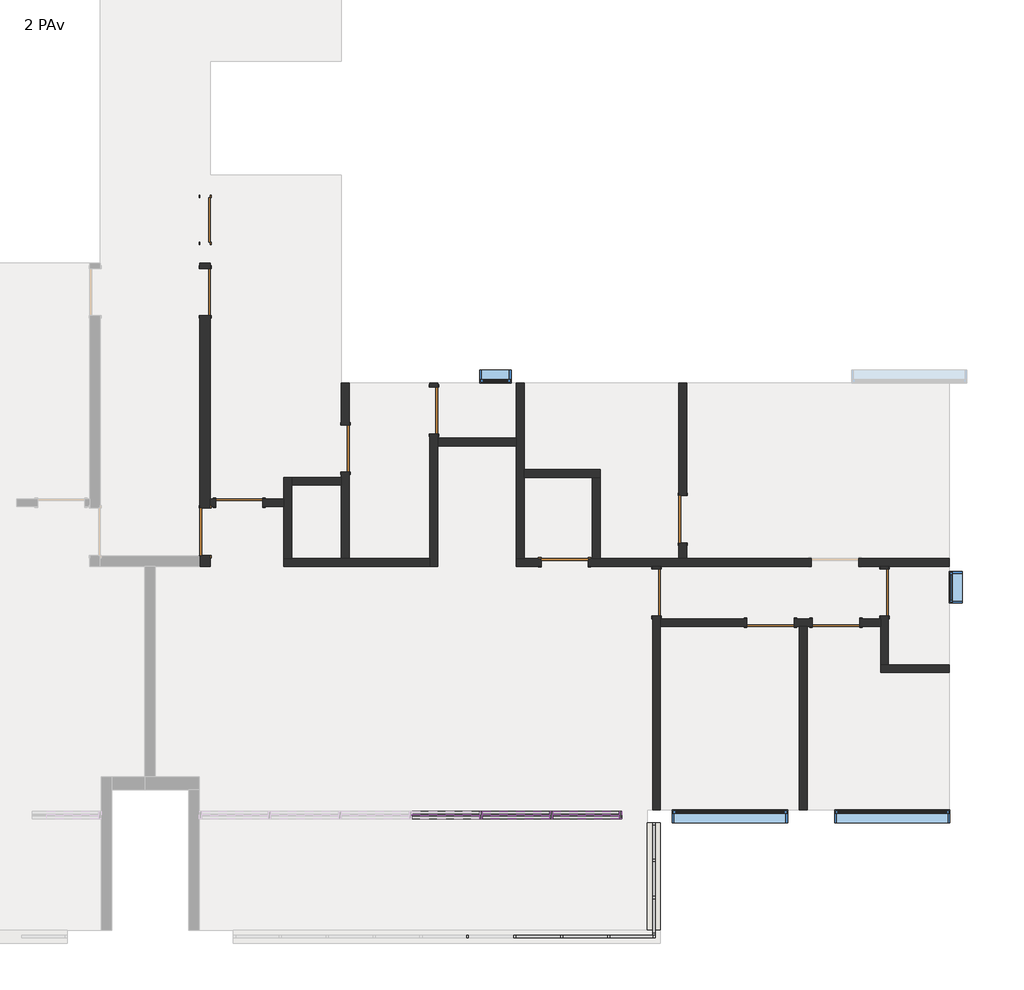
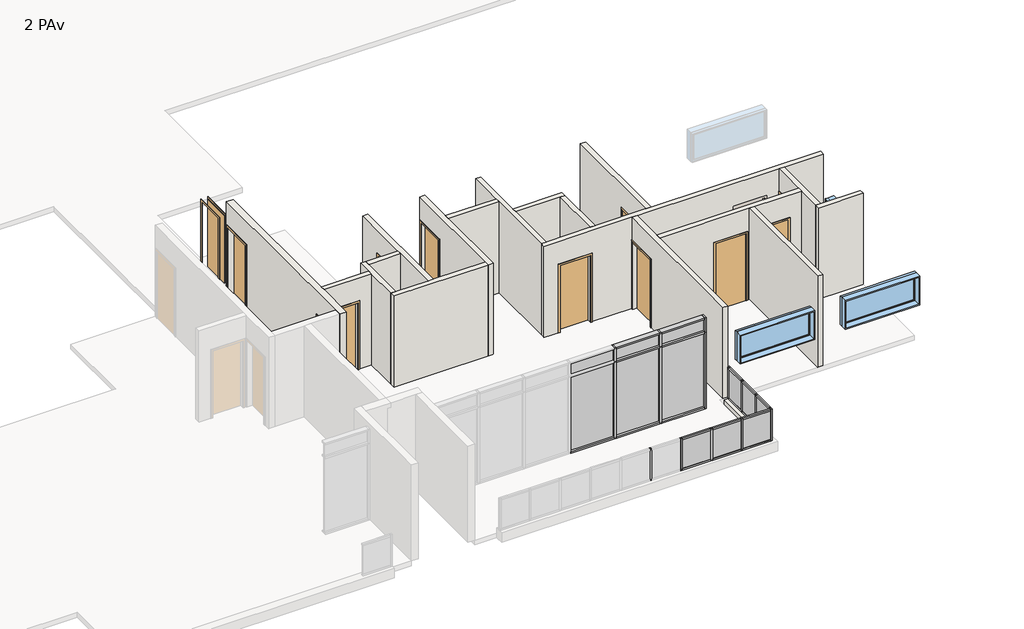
# One storey, part 3 of 6: 34 members, 19 walls, 12 doors, 12 plates, 4 windows.
"""IFC4 building model written with IfcOpenShell, lengths in millimetres."""

from ifc_helpers import new_model, si_unit, frame, origin, place, context, project, spatial, polyline, outline, extrude, faceted_brep, transform, mapped, element, save
from components import door_85_x_210_7675e995, door_90_x_210_ee935524, door_90_x_210_565370b3, door_90_x_210_fbafd55c, montante_retangular_50_mm_quadrado_4acded50, montante_retangular_50_mm_quadrado_237d7072, montante_retangular_50_mm_quadrado_84e40a56, montante_retangular_50_mm_quadrado_3d152aff, montante_retangular_50_mm_quadrado_a01005a4, montante_retangular_50_mm_quadrado_ddd80bd7, montante_retangular_50_x_150_mm_6217edde, montante_retangular_50_x_150_mm_a22249d7, montante_retangular_50_x_150_mm_6225e4e3, montante_retangular_50_x_150_mm_1ca2bba2, montante_retangular_50_x_150_mm_6abf4531, montante_retangular_50_x_150_mm_662c37b1, montante_retangular_50_x_150_mm_567eccab, montante_retangular_50_x_150_mm_0a8c3443, painel_do_sistema_57ceaf50, painel_do_sistema_ab0ed719, painel_do_sistema_0196877a, painel_do_sistema_2aa81470, painel_do_sistema_1ecb5f42, painel_do_sistema_49db1829, painel_do_sistema_5ea5287b, painel_do_sistema_7730abee, window_0610_x_0610_mm_da1d4716, window_220_x_90_84e01c73

model = new_model("IFC4")

# Units and contexts
model_context = context("Model", 3, world=origin())
ifc_project = project(units=[si_unit("LENGTHUNIT", "METRE", prefix="MILLI")], contexts=[model_context])

# Site, building, storey
site = spatial("IfcSite", under=ifc_project)
building = spatial("IfcBuilding", under=site)
storey = spatial("IfcBuildingStorey", under=building, Name="2 PAv", Elevation=6000.0)

# Doors
placement = place(None, origin())
door_85_x_210_shape = door_85_x_210_7675e995(model_context)
element("IfcDoor", 1, ObjectType="M_Descarga simples : 85 x 210", at=placement, inside=storey, context=model_context, shape_type="MappedRepresentation", body=[
    mapped(door_85_x_210_shape, transform((23.7734258, -1171.3385375, 6000.0), x_axis=(0.0, -1.0, 0.0), y_axis=(1.0, 0.0, 0.0), z_axis=(0.0, 0.0, 1.0))),
])
door_90_x_210_shape = door_90_x_210_ee935524(model_context)
element("IfcDoor", 2, ObjectType="M_Descarga simples : 90 x 210", at=placement, inside=storey, context=model_context, shape_type="MappedRepresentation", body=[
    mapped(door_90_x_210_shape, transform((12063.7734258, -8861.3385375, 6000.0), x_axis=(-1.0, 0.0, 0.0), y_axis=(0.0, -1.0, 0.0), z_axis=(0.0, 0.0, 1.0))),
])
element("IfcDoor", 3, ObjectType="M_Descarga simples : 90 x 210", at=placement, inside=storey, context=model_context, shape_type="MappedRepresentation", body=[
    mapped(door_90_x_210_shape, transform((6883.7734258, -7711.3385375, 6000.0), x_axis=(1.0, 0.0, 0.0), y_axis=(0.0, 1.0, 0.0), z_axis=(0.0, 0.0, 1.0))),
])
door_90_x_210_2_shape = door_90_x_210_565370b3(model_context)
element("IfcDoor", 4, ObjectType="M_Descarga simples : 90 x 210", at=placement, inside=storey, context=model_context, shape_type="MappedRepresentation", body=[
    mapped(door_90_x_210_2_shape, transform((673.7734258, -6571.3385375, 6000.0), x_axis=(-1.0, 0.0, 0.0), y_axis=(0.0, -1.0, 0.0), z_axis=(0.0, 0.0, 1.0))),
])
element("IfcDoor", 5, ObjectType="M_Descarga simples : 90 x 210", at=placement, inside=storey, context=model_context, shape_type="MappedRepresentation", body=[
    mapped(door_90_x_210_2_shape, transform((2698.7734258, -5536.3385375, 6000.0), x_axis=(0.0, 1.0, 0.0), y_axis=(-1.0, 0.0, 0.0), z_axis=(0.0, 0.0, 1.0))),
])
element("IfcDoor", 6, ObjectType="M_Descarga simples : 90 x 210", at=placement, inside=storey, context=model_context, shape_type="MappedRepresentation", body=[
    mapped(door_90_x_210_2_shape, transform((4388.7734258, -4811.3385375, 6000.0), x_axis=(0.0, 1.0, 0.0), y_axis=(-1.0, 0.0, 0.0), z_axis=(0.0, 0.0, 1.0))),
])
element("IfcDoor", 7, ObjectType="M_Descarga simples : 90 x 210", at=placement, inside=storey, context=model_context, shape_type="MappedRepresentation", body=[
    mapped(door_90_x_210_2_shape, transform((9138.7734258, -6886.3385375, 6000.0), x_axis=(0.0, -1.0, 0.0), y_axis=(1.0, 0.0, 0.0), z_axis=(0.0, 0.0, 1.0))),
])
element("IfcDoor", 8, ObjectType="M_Descarga simples : 90 x 210", at=placement, inside=storey, context=model_context, shape_type="MappedRepresentation", body=[
    mapped(door_90_x_210_2_shape, transform((8638.7734258, -8286.3385375, 6000.0), x_axis=(0.0, 1.0, 0.0), y_axis=(-1.0, 0.0, 0.0), z_axis=(0.0, 0.0, 1.0))),
])
element("IfcDoor", 9, ObjectType="M_Descarga simples : 90 x 210", at=placement, inside=storey, context=model_context, shape_type="MappedRepresentation", body=[
    mapped(door_90_x_210_2_shape, transform((12988.7734258, -8286.3385375, 6000.0), x_axis=(0.0, 1.0, 0.0), y_axis=(-1.0, 0.0, 0.0), z_axis=(0.0, 0.0, 1.0))),
])
element("IfcDoor", 10, ObjectType="M_Descarga simples : 90 x 210", at=placement, inside=storey, context=model_context, shape_type="MappedRepresentation", body=[
    mapped(door_90_x_210_2_shape, transform((10813.7734258, -8861.3385375, 6000.0), x_axis=(1.0, 0.0, 0.0), y_axis=(0.0, 1.0, 0.0), z_axis=(0.0, 0.0, 1.0))),
])
door_90_x_210_3_shape = door_90_x_210_fbafd55c(model_context)
element("IfcDoor", 11, ObjectType="M_Descarga simples : 90 x 210", at=placement, inside=storey, context=model_context, shape_type="MappedRepresentation", body=[
    mapped(door_90_x_210_3_shape, transform((23.7734258, -2546.3385375, 6000.0), x_axis=(0.0, 1.0, 0.0), y_axis=(-1.0, 0.0, 0.0), z_axis=(0.0, 0.0, 1.0))),
])
element("IfcDoor", 12, ObjectType="M_Descarga simples : 90 x 210", at=placement, inside=storey, context=model_context, shape_type="MappedRepresentation", body=[
    mapped(door_90_x_210_3_shape, transform((23.7734258, -7125.9292512, 6000.0), x_axis=(0.0, -1.0, 0.0), y_axis=(1.0, 0.0, 0.0), z_axis=(0.0, 0.0, 1.0))),
])

# Members
montante_retangular_50_mm_quadrado_shape = montante_retangular_50_mm_quadrado_4acded50(model_context)
element("IfcMember", 13, ObjectType="Montante retangular : 50 mm Quadrado", at=placement, inside=storey, context=model_context, shape_type="MappedRepresentation", body=[
    mapped(montante_retangular_50_mm_quadrado_shape, transform((8563.7734258, -14856.3385375, 7150.0), x_axis=(0.0, 0.0, 1.0), y_axis=(0.0, -1.0, 0.0), z_axis=(1.0, 0.0, 0.0))),
])
montante_retangular_50_mm_quadrado_2_shape = montante_retangular_50_mm_quadrado_237d7072(model_context)
element("IfcMember", 14, ObjectType="Montante retangular : 50 mm Quadrado", at=placement, inside=storey, context=model_context, shape_type="MappedRepresentation", body=[
    mapped(montante_retangular_50_mm_quadrado_2_shape, transform((6798.7734258, -14856.3385375, 7150.0), x_axis=(0.0, 0.0, 1.0), y_axis=(0.0, -1.0, 0.0), z_axis=(1.0, 0.0, 0.0))),
])
element("IfcMember", 15, ObjectType="Montante retangular : 50 mm Quadrado", at=placement, inside=storey, context=model_context, shape_type="MappedRepresentation", body=[
    mapped(montante_retangular_50_mm_quadrado_2_shape, transform((7693.7734258, -14856.3385375, 7150.0), x_axis=(0.0, 0.0, 1.0), y_axis=(0.0, -1.0, 0.0), z_axis=(1.0, 0.0, 0.0))),
])
element("IfcMember", 16, ObjectType="Montante retangular : 50 mm Quadrado", at=placement, inside=storey, context=model_context, shape_type="MappedRepresentation", body=[
    mapped(montante_retangular_50_mm_quadrado_shape, transform((7743.7734258, -14856.3385375, 6150.0), x_axis=(0.0, 0.0, -1.0), y_axis=(0.0, -1.0, 0.0), z_axis=(-1.0, 0.0, 0.0))),
])
element("IfcMember", 17, ObjectType="Montante retangular : 50 mm Quadrado", at=placement, inside=storey, context=model_context, shape_type="MappedRepresentation", body=[
    mapped(montante_retangular_50_mm_quadrado_2_shape, transform((5953.7734258, -14856.3385375, 6150.0), x_axis=(0.0, 0.0, -1.0), y_axis=(0.0, -1.0, 0.0), z_axis=(-1.0, 0.0, 0.0))),
])
element("IfcMember", 18, ObjectType="Montante retangular : 50 mm Quadrado", at=placement, inside=storey, context=model_context, shape_type="MappedRepresentation", body=[
    mapped(montante_retangular_50_mm_quadrado_2_shape, transform((6848.7734258, -14856.3385375, 6150.0), x_axis=(0.0, 0.0, -1.0), y_axis=(0.0, -1.0, 0.0), z_axis=(-1.0, 0.0, 0.0))),
])
montante_retangular_50_mm_quadrado_3_shape = montante_retangular_50_mm_quadrado_84e40a56(model_context)
element("IfcMember", 19, ObjectType="Montante retangular : 50 mm Quadrado", at=placement, inside=storey, context=model_context, shape_type="MappedRepresentation", body=[
    mapped(montante_retangular_50_mm_quadrado_3_shape, transform((5033.7734258, -14856.3385375, 6150.0), x_axis=(1.0, 0.0, 0.0), y_axis=(0.0, -1.0, 0.0), z_axis=(0.0, 0.0, -1.0))),
])
element("IfcMember", 20, ObjectType="Montante retangular : 50 mm Quadrado", at=placement, inside=storey, context=model_context, shape_type="MappedRepresentation", body=[
    mapped(montante_retangular_50_mm_quadrado_3_shape, transform((5928.7734258, -14856.3385375, 6150.0), x_axis=(1.0, 0.0, 0.0), y_axis=(0.0, -1.0, 0.0), z_axis=(0.0, 0.0, -1.0))),
])
element("IfcMember", 21, ObjectType="Montante retangular : 50 mm Quadrado", at=placement, inside=storey, context=model_context, shape_type="MappedRepresentation", body=[
    mapped(montante_retangular_50_mm_quadrado_3_shape, transform((6823.7734258, -14856.3385375, 6150.0), x_axis=(1.0, 0.0, 0.0), y_axis=(0.0, -1.0, 0.0), z_axis=(0.0, 0.0, -1.0))),
])
element("IfcMember", 22, ObjectType="Montante retangular : 50 mm Quadrado", at=placement, inside=storey, context=model_context, shape_type="MappedRepresentation", body=[
    mapped(montante_retangular_50_mm_quadrado_3_shape, transform((7718.7734258, -14856.3385375, 6150.0), x_axis=(1.0, 0.0, 0.0), y_axis=(0.0, -1.0, 0.0), z_axis=(0.0, 0.0, -1.0))),
])
element("IfcMember", 23, ObjectType="Montante retangular : 50 mm Quadrado", at=placement, inside=storey, context=model_context, shape_type="MappedRepresentation", body=[
    mapped(montante_retangular_50_mm_quadrado_3_shape, transform((8588.7734258, -14116.3385375, 6150.0), x_axis=(0.0, 1.0, 0.0), y_axis=(1.0, 0.0, 0.0), z_axis=(0.0, 0.0, -1.0))),
])
element("IfcMember", 24, ObjectType="Montante retangular : 50 mm Quadrado", at=placement, inside=storey, context=model_context, shape_type="MappedRepresentation", body=[
    mapped(montante_retangular_50_mm_quadrado_3_shape, transform((8588.7734258, -13401.3385375, 6150.0), x_axis=(0.0, 1.0, 0.0), y_axis=(1.0, 0.0, 0.0), z_axis=(0.0, 0.0, -1.0))),
])
montante_retangular_50_mm_quadrado_4_shape = montante_retangular_50_mm_quadrado_3d152aff(model_context)
element("IfcMember", 25, ObjectType="Montante retangular : 50 mm Quadrado", at=placement, inside=storey, context=model_context, shape_type="MappedRepresentation", body=[
    mapped(montante_retangular_50_mm_quadrado_4_shape, transform((8613.7734258, -14856.3385375, 6150.0), x_axis=(1.0, 0.0, 0.0), y_axis=(0.0, -1.0, 0.0), z_axis=(0.0, 0.0, -1.0))),
])
element("IfcMember", 26, ObjectType="Montante retangular : 50 mm Quadrado", at=placement, inside=storey, context=model_context, shape_type="MappedRepresentation", body=[
    mapped(montante_retangular_50_mm_quadrado_4_shape, transform((8588.7734258, -12686.3385375, 6150.0), x_axis=(0.0, 1.0, 0.0), y_axis=(1.0, 0.0, 0.0), z_axis=(0.0, 0.0, -1.0))),
])
element("IfcMember", 27, ObjectType="Montante retangular : 50 mm Quadrado", at=placement, inside=storey, context=model_context, shape_type="MappedRepresentation", body=[
    mapped(montante_retangular_50_mm_quadrado_4_shape, transform((8588.7734258, -14831.3385375, 7150.0), x_axis=(0.0, -1.0, 0.0), y_axis=(1.0, 0.0, 0.0), z_axis=(0.0, 0.0, 1.0))),
])
montante_retangular_50_mm_quadrado_5_shape = montante_retangular_50_mm_quadrado_a01005a4(model_context)
element("IfcMember", 28, ObjectType="Montante retangular : 50 mm Quadrado", at=placement, inside=storey, context=model_context, shape_type="MappedRepresentation", body=[
    mapped(montante_retangular_50_mm_quadrado_5_shape, transform((8588.7734258, -12736.3385375, 7150.0), x_axis=(0.0, 0.0, 1.0), y_axis=(1.0, 0.0, 0.0), z_axis=(0.0, 1.0, 0.0))),
])
element("IfcMember", 29, ObjectType="Montante retangular : 50 mm Quadrado", at=placement, inside=storey, context=model_context, shape_type="MappedRepresentation", body=[
    mapped(montante_retangular_50_mm_quadrado_5_shape, transform((8588.7734258, -14141.3385375, 7150.0), x_axis=(0.0, 0.0, 1.0), y_axis=(1.0, 0.0, 0.0), z_axis=(0.0, 1.0, 0.0))),
])
montante_retangular_50_mm_quadrado_6_shape = montante_retangular_50_mm_quadrado_ddd80bd7(model_context)
element("IfcMember", 30, ObjectType="Montante retangular : 50 mm Quadrado", at=placement, inside=storey, context=model_context, shape_type="MappedRepresentation", body=[
    mapped(montante_retangular_50_mm_quadrado_6_shape, transform((8588.7734258, -13426.3385375, 7150.0), x_axis=(0.0, 0.0, 1.0), y_axis=(1.0, 0.0, 0.0), z_axis=(0.0, 1.0, 0.0))),
])
element("IfcMember", 31, ObjectType="Montante retangular : 50 mm Quadrado", at=placement, inside=storey, context=model_context, shape_type="MappedRepresentation", body=[
    mapped(montante_retangular_50_mm_quadrado_5_shape, transform((8588.7734258, -14781.3385375, 6150.0), x_axis=(0.0, 0.0, -1.0), y_axis=(1.0, 0.0, 0.0), z_axis=(0.0, -1.0, 0.0))),
])
element("IfcMember", 32, ObjectType="Montante retangular : 50 mm Quadrado", at=placement, inside=storey, context=model_context, shape_type="MappedRepresentation", body=[
    mapped(montante_retangular_50_mm_quadrado_5_shape, transform((8588.7734258, -13376.3385375, 6150.0), x_axis=(0.0, 0.0, -1.0), y_axis=(1.0, 0.0, 0.0), z_axis=(0.0, -1.0, 0.0))),
])
element("IfcMember", 33, ObjectType="Montante retangular : 50 mm Quadrado", at=placement, inside=storey, context=model_context, shape_type="MappedRepresentation", body=[
    mapped(montante_retangular_50_mm_quadrado_6_shape, transform((8588.7734258, -14091.3385375, 6150.0), x_axis=(0.0, 0.0, -1.0), y_axis=(1.0, 0.0, 0.0), z_axis=(0.0, -1.0, 0.0))),
])
montante_retangular_50_x_150_mm_shape = montante_retangular_50_x_150_mm_6217edde(model_context)
element("IfcMember", 34, ObjectType="Montante retangular : 50 x 150 mm", at=placement, inside=storey, context=model_context, shape_type="MappedRepresentation", body=[
    mapped(montante_retangular_50_x_150_mm_shape, transform((6654.6067592, -12536.3385375, 8850.0), x_axis=(0.0, 0.0, 1.0), y_axis=(0.0, 1.0, 0.0), z_axis=(-1.0, 0.0, 0.0))),
])
montante_retangular_50_x_150_mm_2_shape = montante_retangular_50_x_150_mm_a22249d7(model_context)
element("IfcMember", 35, ObjectType="Montante retangular : 50 x 150 mm", at=placement, inside=storey, context=model_context, shape_type="MappedRepresentation", body=[
    mapped(montante_retangular_50_x_150_mm_2_shape, transform((5310.4400925, -12536.3385375, 8850.0), x_axis=(0.0, 0.0, 1.0), y_axis=(0.0, 1.0, 0.0), z_axis=(-1.0, 0.0, 0.0))),
])
element("IfcMember", 36, ObjectType="Montante retangular : 50 x 150 mm", at=placement, inside=storey, context=model_context, shape_type="MappedRepresentation", body=[
    mapped(montante_retangular_50_x_150_mm_shape, transform((7923.7734258, -12536.3385375, 6000.0), x_axis=(0.0, 0.0, -1.0), y_axis=(0.0, 1.0, 0.0), z_axis=(1.0, 0.0, 0.0))),
])
element("IfcMember", 37, ObjectType="Montante retangular : 50 x 150 mm", at=placement, inside=storey, context=model_context, shape_type="MappedRepresentation", body=[
    mapped(montante_retangular_50_x_150_mm_2_shape, transform((6604.6067592, -12536.3385375, 6000.0), x_axis=(0.0, 0.0, -1.0), y_axis=(0.0, 1.0, 0.0), z_axis=(1.0, 0.0, 0.0))),
])
element("IfcMember", 38, ObjectType="Montante retangular : 50 x 150 mm", at=placement, inside=storey, context=model_context, shape_type="MappedRepresentation", body=[
    mapped(montante_retangular_50_x_150_mm_2_shape, transform((5260.4400925, -12536.3385375, 6000.0), x_axis=(0.0, 0.0, -1.0), y_axis=(0.0, 1.0, 0.0), z_axis=(1.0, 0.0, 0.0))),
])
montante_retangular_50_x_150_mm_3_shape = montante_retangular_50_x_150_mm_6225e4e3(model_context)
element("IfcMember", 39, ObjectType="Montante retangular : 50 x 150 mm", at=placement, inside=storey, context=model_context, shape_type="MappedRepresentation", body=[
    mapped(montante_retangular_50_x_150_mm_3_shape, transform((6629.6067592, -12536.3385375, 6000.0), x_axis=(-1.0, 0.0, 0.0), y_axis=(0.0, 1.0, 0.0), z_axis=(0.0, 0.0, -1.0))),
])
element("IfcMember", 40, ObjectType="Montante retangular : 50 x 150 mm", at=placement, inside=storey, context=model_context, shape_type="MappedRepresentation", body=[
    mapped(montante_retangular_50_x_150_mm_3_shape, transform((5285.4400925, -12536.3385375, 6000.0), x_axis=(-1.0, 0.0, 0.0), y_axis=(0.0, 1.0, 0.0), z_axis=(0.0, 0.0, -1.0))),
])
montante_retangular_50_x_150_mm_4_shape = montante_retangular_50_x_150_mm_1ca2bba2(model_context)
element("IfcMember", 41, ObjectType="Montante retangular : 50 x 150 mm", at=placement, inside=storey, context=model_context, shape_type="MappedRepresentation", body=[
    mapped(montante_retangular_50_x_150_mm_4_shape, transform((6654.6067592, -12536.3385375, 8400.0), x_axis=(0.0, 0.0, 1.0), y_axis=(0.0, 1.0, 0.0), z_axis=(-1.0, 0.0, 0.0))),
])
montante_retangular_50_x_150_mm_5_shape = montante_retangular_50_x_150_mm_6abf4531(model_context)
element("IfcMember", 42, ObjectType="Montante retangular : 50 x 150 mm", at=placement, inside=storey, context=model_context, shape_type="MappedRepresentation", body=[
    mapped(montante_retangular_50_x_150_mm_5_shape, transform((5310.4400925, -12536.3385375, 8400.0), x_axis=(0.0, 0.0, 1.0), y_axis=(0.0, 1.0, 0.0), z_axis=(-1.0, 0.0, 0.0))),
])
montante_retangular_50_x_150_mm_6_shape = montante_retangular_50_x_150_mm_662c37b1(model_context)
element("IfcMember", 43, ObjectType="Montante retangular : 50 x 150 mm", at=placement, inside=storey, context=model_context, shape_type="MappedRepresentation", body=[
    mapped(montante_retangular_50_x_150_mm_6_shape, transform((7973.7734258, -12536.3385375, 8400.0), x_axis=(1.0, 0.0, 0.0), y_axis=(0.0, 1.0, 0.0), z_axis=(0.0, 0.0, 1.0))),
])
montante_retangular_50_x_150_mm_7_shape = montante_retangular_50_x_150_mm_567eccab(model_context)
element("IfcMember", 44, ObjectType="Montante retangular : 50 x 150 mm", at=placement, inside=storey, context=model_context, shape_type="MappedRepresentation", body=[
    mapped(montante_retangular_50_x_150_mm_7_shape, transform((6629.6067592, -12536.3385375, 8400.0), x_axis=(-1.0, 0.0, 0.0), y_axis=(0.0, 1.0, 0.0), z_axis=(0.0, 0.0, -1.0))),
])
element("IfcMember", 45, ObjectType="Montante retangular : 50 x 150 mm", at=placement, inside=storey, context=model_context, shape_type="MappedRepresentation", body=[
    mapped(montante_retangular_50_x_150_mm_7_shape, transform((5285.4400925, -12536.3385375, 8400.0), x_axis=(-1.0, 0.0, 0.0), y_axis=(0.0, 1.0, 0.0), z_axis=(0.0, 0.0, -1.0))),
])
montante_retangular_50_x_150_mm_8_shape = montante_retangular_50_x_150_mm_0a8c3443(model_context)
element("IfcMember", 46, ObjectType="Montante retangular : 50 x 150 mm", at=placement, inside=storey, context=model_context, shape_type="MappedRepresentation", body=[
    mapped(montante_retangular_50_x_150_mm_8_shape, transform((7973.7734258, -12536.3385375, 8850.0), x_axis=(1.0, 0.0, 0.0), y_axis=(0.0, 1.0, 0.0), z_axis=(0.0, 0.0, 1.0))),
])

# Plates
painel_do_sistema_shape = painel_do_sistema_57ceaf50(model_context)
element("IfcPlate", 47, ObjectType="Painel do sistema : Envidraçado", at=placement, inside=storey, context=model_context, shape_type="MappedRepresentation", body=[
    mapped(painel_do_sistema_shape, transform((8153.7734258, -14856.3385375, 6200.0), x_axis=(1.0, 0.0, 0.0), y_axis=(0.0, 1.0, 0.0), z_axis=(0.0, 0.0, 1.0))),
])
painel_do_sistema_2_shape = painel_do_sistema_ab0ed719(model_context)
element("IfcPlate", 48, ObjectType="Painel do sistema : Envidraçado", at=placement, inside=storey, context=model_context, shape_type="MappedRepresentation", body=[
    mapped(painel_do_sistema_2_shape, transform((6376.2734258, -14856.3385375, 6200.0), x_axis=(1.0, 0.0, 0.0), y_axis=(0.0, 1.0, 0.0), z_axis=(0.0, 0.0, 1.0))),
])
element("IfcPlate", 49, ObjectType="Painel do sistema : Envidraçado", at=placement, inside=storey, context=model_context, shape_type="MappedRepresentation", body=[
    mapped(painel_do_sistema_2_shape, transform((7271.2734258, -14856.3385375, 6200.0), x_axis=(1.0, 0.0, 0.0), y_axis=(0.0, 1.0, 0.0), z_axis=(0.0, 0.0, 1.0))),
])
painel_do_sistema_3_shape = painel_do_sistema_0196877a(model_context)
element("IfcPlate", 50, ObjectType="Painel do sistema : Envidraçado", at=placement, inside=storey, context=model_context, shape_type="MappedRepresentation", body=[
    mapped(painel_do_sistema_3_shape, transform((8588.7734258, -14461.3385375, 6200.0), x_axis=(0.0, 1.0, 0.0), y_axis=(-1.0, 0.0, 0.0), z_axis=(0.0, 0.0, 1.0))),
])
element("IfcPlate", 51, ObjectType="Painel do sistema : Envidraçado", at=placement, inside=storey, context=model_context, shape_type="MappedRepresentation", body=[
    mapped(painel_do_sistema_3_shape, transform((8588.7734258, -13056.3385375, 6200.0), x_axis=(0.0, 1.0, 0.0), y_axis=(-1.0, 0.0, 0.0), z_axis=(0.0, 0.0, 1.0))),
])
painel_do_sistema_4_shape = painel_do_sistema_2aa81470(model_context)
element("IfcPlate", 52, ObjectType="Painel do sistema : Envidraçado", at=placement, inside=storey, context=model_context, shape_type="MappedRepresentation", body=[
    mapped(painel_do_sistema_4_shape, transform((8588.7734258, -13758.8385375, 6200.0), x_axis=(0.0, 1.0, 0.0), y_axis=(-1.0, 0.0, 0.0), z_axis=(0.0, 0.0, 1.0))),
])
painel_do_sistema_5_shape = painel_do_sistema_1ecb5f42(model_context)
element("IfcPlate", 53, ObjectType="Painel do sistema : Envidraçado", at=placement, inside=storey, context=model_context, shape_type="MappedRepresentation", body=[
    mapped(painel_do_sistema_5_shape, transform((7289.1900925, -12536.3385375, 6050.0), x_axis=(-1.0, 0.0, 0.0), y_axis=(0.0, -1.0, 0.0), z_axis=(0.0, 0.0, 1.0))),
])
painel_do_sistema_6_shape = painel_do_sistema_49db1829(model_context)
element("IfcPlate", 54, ObjectType="Painel do sistema : Envidraçado", at=placement, inside=storey, context=model_context, shape_type="MappedRepresentation", body=[
    mapped(painel_do_sistema_6_shape, transform((5957.5234258, -12536.3385375, 6050.0), x_axis=(-1.0, 0.0, 0.0), y_axis=(0.0, -1.0, 0.0), z_axis=(0.0, 0.0, 1.0))),
])
element("IfcPlate", 55, ObjectType="Painel do sistema : Envidraçado", at=placement, inside=storey, context=model_context, shape_type="MappedRepresentation", body=[
    mapped(painel_do_sistema_6_shape, transform((4613.3567592, -12536.3385375, 6050.0), x_axis=(-1.0, 0.0, 0.0), y_axis=(0.0, -1.0, 0.0), z_axis=(0.0, 0.0, 1.0))),
])
painel_do_sistema_7_shape = painel_do_sistema_5ea5287b(model_context)
element("IfcPlate", 56, ObjectType="Painel do sistema : Envidraçado", at=placement, inside=storey, context=model_context, shape_type="MappedRepresentation", body=[
    mapped(painel_do_sistema_7_shape, transform((7289.1900925, -12536.3385375, 8425.0), x_axis=(-1.0, 0.0, 0.0), y_axis=(0.0, -1.0, 0.0), z_axis=(0.0, 0.0, 1.0))),
])
painel_do_sistema_8_shape = painel_do_sistema_7730abee(model_context)
element("IfcPlate", 57, ObjectType="Painel do sistema : Envidraçado", at=placement, inside=storey, context=model_context, shape_type="MappedRepresentation", body=[
    mapped(painel_do_sistema_8_shape, transform((5957.5234258, -12536.3385375, 8425.0), x_axis=(-1.0, 0.0, 0.0), y_axis=(0.0, -1.0, 0.0), z_axis=(0.0, 0.0, 1.0))),
])
element("IfcPlate", 58, ObjectType="Painel do sistema : Envidraçado", at=placement, inside=storey, context=model_context, shape_type="MappedRepresentation", body=[
    mapped(painel_do_sistema_8_shape, transform((4613.3567592, -12536.3385375, 8425.0), x_axis=(-1.0, 0.0, 0.0), y_axis=(0.0, -1.0, 0.0), z_axis=(0.0, 0.0, 1.0))),
])

# Walls
element("IfcWall", 59, ObjectType="Exeterna 25", at=placement, inside=storey, context=model_context, shape_type="SweptSolid", body=[
    extrude(outline(polyline([(8713.7734258, -12686.3385375), (8713.7734258, -14731.3385375), (8463.7734258, -14731.3385375), (8463.7734258, -12686.3385375), (8713.7734258, -12686.3385375)])), frame((0.0, 0.0, 5850.0), z_axis=(0.0, 0.0, 1.0), x_axis=(1.0, 0.0, 0.0)), (0.0, 0.0, 1.0), 300.0),
])
element("IfcWall", 60, ObjectType="Interna 15", at=placement, inside=storey, context=model_context, shape_type="Brep", body=[
    faceted_brep([(8713.7734258, -7836.3385375, 8100.0), (8713.7734258, -7836.3385375, 6000.0), (8713.7734258, -7786.3385375, 6000.0), (8713.7734258, -7786.3385375, 8850.0), (8713.7734258, -8786.3385375, 8850.0), (8713.7734258, -8936.3385375, 8850.0), (8713.7734258, -12436.3385375, 8850.0), (8713.7734258, -12436.3385375, 6000.0), (8713.7734258, -8936.3385375, 6000.0), (8713.7734258, -8786.3385375, 6000.0), (8713.7734258, -8736.3385375, 6000.0), (8713.7734258, -8736.3385375, 8100.0), (8563.7734258, -7786.3385375, 6000.0), (8563.7734258, -7836.3385375, 6000.0), (8563.7734258, -7836.3385375, 8100.0), (8563.7734258, -8736.3385375, 8100.0), (8563.7734258, -8736.3385375, 6000.0), (8563.7734258, -12436.3385375, 6000.0), (8563.7734258, -12436.3385375, 8850.0), (8563.7734258, -7786.3385375, 8850.0)], [[[0, 1, 2, 3, 4, 5, 6, 7, 8, 9, 10, 11]], [[12, 13, 14, 15, 16, 17, 18, 19]], [[2, 1, 13, 12]], [[10, 9, 8, 7, 17, 16]], [[6, 5, 4, 3, 19, 18]], [[3, 2, 12, 19]], [[14, 13, 1, 0]], [[15, 14, 0, 11]], [[16, 15, 11, 10]], [[7, 6, 18, 17]]]),
])
element("IfcWall", 61, ObjectType="Interna 15", at=placement, inside=storey, context=model_context, shape_type="Brep", body=[
    faceted_brep([(11263.7734258, -8936.3385375, 6000.0), (11363.7734258, -8936.3385375, 6000.0), (11513.7734258, -8936.3385375, 6000.0), (11613.7734258, -8936.3385375, 6000.0), (11613.7734258, -8936.3385375, 8100.0), (12513.7734258, -8936.3385375, 8100.0), (12513.7734258, -8936.3385375, 6000.0), (12913.7734258, -8936.3385375, 6000.0), (12913.7734258, -8936.3385375, 8850.0), (11513.7734258, -8936.3385375, 8850.0), (11363.7734258, -8936.3385375, 8850.0), (8713.7734258, -8936.3385375, 8850.0), (8713.7734258, -8936.3385375, 6000.0), (10363.7734258, -8936.3385375, 6000.0), (10363.7734258, -8936.3385375, 8100.0), (11263.7734258, -8936.3385375, 8100.0), (11613.7734258, -8786.3385375, 8100.0), (11613.7734258, -8786.3385375, 6000.0), (11263.7734258, -8786.3385375, 6000.0), (11263.7734258, -8786.3385375, 8100.0), (10363.7734258, -8786.3385375, 8100.0), (10363.7734258, -8786.3385375, 6000.0), (8713.7734258, -8786.3385375, 6000.0), (8713.7734258, -8786.3385375, 8850.0), (12913.7734258, -8786.3385375, 8850.0), (12913.7734258, -8786.3385375, 6000.0), (12513.7734258, -8786.3385375, 6000.0), (12513.7734258, -8786.3385375, 8100.0)], [[[0, 1, 2, 3, 4, 5, 6, 7, 8, 9, 10, 11, 12, 13, 14, 15]], [[16, 17, 18, 19, 20, 21, 22, 23, 24, 25, 26, 27]], [[13, 12, 22, 21]], [[26, 25, 7, 6]], [[18, 17, 3, 2, 1, 0]], [[11, 10, 9, 8, 24, 23]], [[12, 11, 23, 22]], [[8, 7, 25, 24]], [[4, 3, 17, 16]], [[5, 4, 16, 27]], [[6, 5, 27, 26]], [[19, 18, 0, 15]], [[20, 19, 15, 14]], [[21, 20, 14, 13]]]),
])
element("IfcWall", 62, ObjectType="Interna 15", at=placement, inside=storey, context=model_context, shape_type="SweptSolid", body=[
    extrude(outline(polyline([(11363.7734258, -12436.3385375), (11363.7734258, -8936.3385375), (11513.7734258, -8936.3385375), (11513.7734258, -12436.3385375), (11363.7734258, -12436.3385375)])), frame((0.0, 0.0, 6000.0), z_axis=(0.0, 0.0, 1.0), x_axis=(1.0, 0.0, 0.0)), (0.0, 0.0, 1.0), 2850.0),
])
element("IfcWall", 63, ObjectType="Interna 15", at=placement, inside=storey, context=model_context, shape_type="Brep", body=[
    faceted_brep([(14223.269929, -9666.3385375, 6000.0), (13063.7734258, -9666.3385375, 6000.0), (12913.7734258, -9666.3385375, 6000.0), (12913.7734258, -9666.3385375, 8850.0), (13063.7734258, -9666.3385375, 8850.0), (14223.269929, -9666.3385375, 8850.0), (14223.269929, -9816.3385375, 6000.0), (14223.269929, -9816.3385375, 8850.0), (12913.7734258, -9816.3385375, 8850.0), (12913.7734258, -9816.3385375, 6000.0)], [[[0, 1, 2, 3, 4, 5]], [[6, 7, 8, 9]], [[2, 1, 0, 6, 9]], [[5, 4, 3, 8, 7]], [[3, 2, 9, 8]], [[0, 5, 7, 6]]]),
])
element("IfcWall", 64, ObjectType="Interna 15", at=placement, inside=storey, context=model_context, shape_type="Brep", body=[
    faceted_brep([(13063.7734258, -7836.3385375, 8100.0), (13063.7734258, -7836.3385375, 6000.0), (13063.7734258, -7786.3385375, 6000.0), (13063.7734258, -7786.3385375, 8850.0), (13063.7734258, -9666.3385375, 8850.0), (13063.7734258, -9666.3385375, 6000.0), (13063.7734258, -8736.3385375, 6000.0), (13063.7734258, -8736.3385375, 8100.0), (12913.7734258, -7786.3385375, 6000.0), (12913.7734258, -7836.3385375, 6000.0), (12913.7734258, -7836.3385375, 8100.0), (12913.7734258, -8736.3385375, 8100.0), (12913.7734258, -8736.3385375, 6000.0), (12913.7734258, -8786.3385375, 6000.0), (12913.7734258, -8936.3385375, 6000.0), (12913.7734258, -9666.3385375, 6000.0), (12913.7734258, -9666.3385375, 8850.0), (12913.7734258, -8936.3385375, 8850.0), (12913.7734258, -8786.3385375, 8850.0), (12913.7734258, -7786.3385375, 8850.0)], [[[0, 1, 2, 3, 4, 5, 6, 7]], [[8, 9, 10, 11, 12, 13, 14, 15, 16, 17, 18, 19]], [[6, 5, 15, 14, 13, 12]], [[2, 1, 9, 8]], [[4, 3, 19, 18, 17, 16]], [[3, 2, 8, 19]], [[5, 4, 16, 15]], [[10, 9, 1, 0]], [[11, 10, 0, 7]], [[12, 11, 7, 6]]]),
])
element("IfcWall", 65, ObjectType="Interna 15", at=placement, inside=storey, context=model_context, shape_type="Brep", body=[
    faceted_brep([(11593.7734258, -7636.3385375, 6000.0), (9213.7734258, -7636.3385375, 6000.0), (9063.7734258, -7636.3385375, 6000.0), (7563.7734258, -7636.3385375, 6000.0), (7413.7734258, -7636.3385375, 6000.0), (7333.7734258, -7636.3385375, 6000.0), (7333.7734258, -7636.3385375, 8100.0), (6433.7734258, -7636.3385375, 8100.0), (6433.7734258, -7636.3385375, 6000.0), (6113.7734258, -7636.3385375, 6000.0), (5963.7734258, -7636.3385375, 6000.0), (5963.7734258, -7636.3385375, 8850.0), (6113.7734258, -7636.3385375, 8850.0), (7413.7734258, -7636.3385375, 8850.0), (7563.7734258, -7636.3385375, 8850.0), (9063.7734258, -7636.3385375, 8850.0), (9213.7734258, -7636.3385375, 8850.0), (14223.269929, -7636.3385375, 8850.0), (14223.269929, -7636.3385375, 6000.0), (12493.7734258, -7636.3385375, 6000.0), (12493.7734258, -7636.3385375, 8100.0), (11593.7734258, -7636.3385375, 8100.0), (7333.7734258, -7786.3385375, 8100.0), (7333.7734258, -7786.3385375, 6000.0), (8563.7734258, -7786.3385375, 6000.0), (8713.7734258, -7786.3385375, 6000.0), (11593.7734258, -7786.3385375, 6000.0), (11593.7734258, -7786.3385375, 8100.0), (12493.7734258, -7786.3385375, 8100.0), (12493.7734258, -7786.3385375, 6000.0), (12913.7734258, -7786.3385375, 6000.0), (13063.7734258, -7786.3385375, 6000.0), (14223.269929, -7786.3385375, 6000.0), (14223.269929, -7786.3385375, 8850.0), (13063.7734258, -7786.3385375, 8850.0), (12913.7734258, -7786.3385375, 8850.0), (8713.7734258, -7786.3385375, 8850.0), (8563.7734258, -7786.3385375, 8850.0), (5963.7734258, -7786.3385375, 8850.0), (5963.7734258, -7786.3385375, 6000.0), (6433.7734258, -7786.3385375, 6000.0), (6433.7734258, -7786.3385375, 8100.0)], [[[0, 1, 2, 3, 4, 5, 6, 7, 8, 9, 10, 11, 12, 13, 14, 15, 16, 17, 18, 19, 20, 21]], [[22, 23, 24, 25, 26, 27, 28, 29, 30, 31, 32, 33, 34, 35, 36, 37, 38, 39, 40, 41]], [[40, 39, 10, 9, 8]], [[26, 25, 24, 23, 5, 4, 3, 2, 1, 0]], [[32, 31, 30, 29, 19, 18]], [[17, 16, 15, 14, 13, 12, 11, 38, 37, 36, 35, 34, 33]], [[11, 10, 39, 38]], [[6, 5, 23, 22]], [[7, 6, 22, 41]], [[8, 7, 41, 40]], [[20, 19, 29, 28]], [[21, 20, 28, 27]], [[0, 21, 27, 26]], [[18, 17, 33, 32]]]),
])
element("IfcWall", 66, ObjectType="Interna 15", at=placement, inside=storey, context=model_context, shape_type="Brep", body=[
    faceted_brep([(6113.7734258, -7636.3385375, 6000.0), (6113.7734258, -6086.3385375, 6000.0), (6113.7734258, -5936.3385375, 6000.0), (6113.7734258, -4286.3385375, 6000.0), (6113.7734258, -4286.3385375, 8850.0), (6113.7734258, -5936.3385375, 8850.0), (6113.7734258, -6086.3385375, 8850.0), (6113.7734258, -7636.3385375, 8850.0), (5963.7734258, -7636.3385375, 6000.0), (5963.7734258, -7636.3385375, 8850.0), (5963.7734258, -5486.3385375, 8850.0), (5963.7734258, -5336.3385375, 8850.0), (5963.7734258, -4286.3385375, 8850.0), (5963.7734258, -4286.3385375, 6000.0), (5963.7734258, -5336.3385375, 6000.0), (5963.7734258, -5486.3385375, 6000.0)], [[[0, 1, 2, 3, 4, 5, 6, 7]], [[8, 9, 10, 11, 12, 13, 14, 15]], [[3, 2, 1, 0, 8, 15, 14, 13]], [[7, 6, 5, 4, 12, 11, 10, 9]], [[0, 7, 9, 8]], [[4, 3, 13, 12]]]),
])
element("IfcWall", 67, ObjectType="Interna 15", at=placement, inside=storey, context=model_context, shape_type="Brep", body=[
    faceted_brep([(6113.7734258, -6086.3385375, 6000.0), (7413.7734258, -6086.3385375, 6000.0), (7563.7734258, -6086.3385375, 6000.0), (7563.7734258, -6086.3385375, 8850.0), (7413.7734258, -6086.3385375, 8850.0), (6113.7734258, -6086.3385375, 8850.0), (6113.7734258, -5936.3385375, 6000.0), (6113.7734258, -5936.3385375, 8850.0), (7563.7734258, -5936.3385375, 8850.0), (7563.7734258, -5936.3385375, 6000.0)], [[[0, 1, 2, 3, 4, 5]], [[6, 7, 8, 9]], [[2, 1, 0, 6, 9]], [[5, 4, 3, 8, 7]], [[0, 5, 7, 6]], [[3, 2, 9, 8]]]),
])
element("IfcWall", 68, ObjectType="Interna 15", at=placement, inside=storey, context=model_context, shape_type="SweptSolid", body=[
    extrude(outline(polyline([(7413.7734258, -7636.3385375), (7413.7734258, -6086.3385375), (7563.7734258, -6086.3385375), (7563.7734258, -7636.3385375), (7413.7734258, -7636.3385375)])), frame((0.0, 0.0, 6000.0), z_axis=(0.0, 0.0, 1.0), x_axis=(1.0, 0.0, 0.0)), (0.0, 0.0, 1.0), 2850.0),
])
element("IfcWall", 69, ObjectType="Interna 15", at=placement, inside=storey, context=model_context, shape_type="SweptSolid", body=[
    extrude(outline(polyline([(-7336.3385375, 8100.0), (-7336.3385375, 6000.0), (-7636.3385375, 6000.0), (-7636.3385375, 8850.0), (-4286.3385375, 8850.0), (-4286.3385375, 6000.0), (-6436.3385375, 6000.0), (-6436.3385375, 8100.0), (-7336.3385375, 8100.0)])), frame((9063.7734258, 0.0, 0.0), z_axis=(1.0, 0.0, 0.0), x_axis=(0.0, 1.0, 0.0)), (0.0, 0.0, 1.0), 150.0),
])
element("IfcWall", 70, ObjectType="Interna 15", at=placement, inside=storey, context=model_context, shape_type="SweptSolid", body=[
    extrude(outline(polyline([(4463.7734258, -5336.3385375), (5963.7734258, -5336.3385375), (5963.7734258, -5486.3385375), (4463.7734258, -5486.3385375), (4463.7734258, -5336.3385375)])), frame((0.0, 0.0, 6000.0), z_axis=(0.0, 0.0, 1.0), x_axis=(1.0, 0.0, 0.0)), (0.0, 0.0, 1.0), 2850.0),
])
element("IfcWall", 71, ObjectType="Interna 15", at=placement, inside=storey, context=model_context, shape_type="Brep", body=[
    faceted_brep([(4313.7734258, -4286.3385375, 6000.0), (4313.7734258, -4361.3385375, 6000.0), (4313.7734258, -4361.3385375, 8100.0), (4313.7734258, -5261.3385375, 8100.0), (4313.7734258, -5261.3385375, 6000.0), (4313.7734258, -7636.3385375, 6000.0), (4313.7734258, -7786.3385375, 6000.0), (4313.7734258, -7786.3385375, 8850.0), (4313.7734258, -7636.3385375, 8850.0), (4313.7734258, -4286.3385375, 8850.0), (4463.7734258, -4361.3385375, 8100.0), (4463.7734258, -4361.3385375, 6000.0), (4463.7734258, -4286.3385375, 6000.0), (4463.7734258, -4286.3385375, 8850.0), (4463.7734258, -5336.3385375, 8850.0), (4463.7734258, -5486.3385375, 8850.0), (4463.7734258, -7786.3385375, 8850.0), (4463.7734258, -7786.3385375, 6000.0), (4463.7734258, -5486.3385375, 6000.0), (4463.7734258, -5336.3385375, 6000.0), (4463.7734258, -5261.3385375, 6000.0), (4463.7734258, -5261.3385375, 8100.0)], [[[0, 1, 2, 3, 4, 5, 6, 7, 8, 9]], [[10, 11, 12, 13, 14, 15, 16, 17, 18, 19, 20, 21]], [[12, 11, 1, 0]], [[20, 19, 18, 17, 6, 5, 4]], [[9, 8, 7, 16, 15, 14, 13]], [[7, 6, 17, 16]], [[2, 1, 11, 10]], [[3, 2, 10, 21]], [[4, 3, 21, 20]], [[0, 9, 13, 12]]]),
])
element("IfcWall", 72, ObjectType="Interna 15", at=placement, inside=storey, context=model_context, shape_type="Brep", body=[
    faceted_brep([(4313.7734258, -7636.3385375, 6000.0), (2773.7734258, -7636.3385375, 6000.0), (2623.7734258, -7636.3385375, 6000.0), (1673.7734258, -7636.3385375, 6000.0), (1523.7734258, -7636.3385375, 6000.0), (1523.7734258, -7636.3385375, 8850.0), (1673.7734258, -7636.3385375, 8850.0), (2623.7734258, -7636.3385375, 8850.0), (2773.7734258, -7636.3385375, 8850.0), (4313.7734258, -7636.3385375, 8850.0), (4313.7734258, -7786.3385375, 6000.0), (4313.7734258, -7786.3385375, 8850.0), (1523.7734258, -7786.3385375, 8850.0), (1523.7734258, -7786.3385375, 6000.0)], [[[0, 1, 2, 3, 4, 5, 6, 7, 8, 9]], [[10, 11, 12, 13]], [[4, 3, 2, 1, 0, 10, 13]], [[9, 8, 7, 6, 5, 12, 11]], [[0, 9, 11, 10]], [[5, 4, 13, 12]]]),
])
element("IfcWall", 73, ObjectType="Interna 15", at=placement, inside=storey, context=model_context, shape_type="Brep", body=[
    faceted_brep([(2773.7734258, -5086.3385375, 8100.0), (2773.7734258, -5086.3385375, 6000.0), (2773.7734258, -4286.3385375, 6000.0), (2773.7734258, -4286.3385375, 8850.0), (2773.7734258, -7636.3385375, 8850.0), (2773.7734258, -7636.3385375, 6000.0), (2773.7734258, -5986.3385375, 6000.0), (2773.7734258, -5986.3385375, 8100.0), (2623.7734258, -4286.3385375, 6000.0), (2623.7734258, -5086.3385375, 6000.0), (2623.7734258, -5086.3385375, 8100.0), (2623.7734258, -5986.3385375, 8100.0), (2623.7734258, -5986.3385375, 6000.0), (2623.7734258, -6086.3385375, 6000.0), (2623.7734258, -6236.3385375, 6000.0), (2623.7734258, -7636.3385375, 6000.0), (2623.7734258, -7636.3385375, 8850.0), (2623.7734258, -6236.3385375, 8850.0), (2623.7734258, -6086.3385375, 8850.0), (2623.7734258, -4286.3385375, 8850.0)], [[[0, 1, 2, 3, 4, 5, 6, 7]], [[8, 9, 10, 11, 12, 13, 14, 15, 16, 17, 18, 19]], [[6, 5, 15, 14, 13, 12]], [[2, 1, 9, 8]], [[4, 3, 19, 18, 17, 16]], [[5, 4, 16, 15]], [[10, 9, 1, 0]], [[11, 10, 0, 7]], [[12, 11, 7, 6]], [[3, 2, 8, 19]]]),
])
element("IfcWall", 74, ObjectType="Interna 15", at=placement, inside=storey, context=model_context, shape_type="Brep", body=[
    faceted_brep([(1673.7734258, -7636.3385375, 6000.0), (1673.7734258, -6236.3385375, 6000.0), (1673.7734258, -6086.3385375, 6000.0), (1673.7734258, -6086.3385375, 8850.0), (1673.7734258, -6236.3385375, 8850.0), (1673.7734258, -7636.3385375, 8850.0), (1523.7734258, -7636.3385375, 6000.0), (1523.7734258, -7636.3385375, 8850.0), (1523.7734258, -6646.3385375, 8850.0), (1523.7734258, -6496.3385375, 8850.0), (1523.7734258, -6086.3385375, 8850.0), (1523.7734258, -6086.3385375, 6000.0), (1523.7734258, -6496.3385375, 6000.0), (1523.7734258, -6646.3385375, 6000.0)], [[[0, 1, 2, 3, 4, 5]], [[6, 7, 8, 9, 10, 11, 12, 13]], [[2, 1, 0, 6, 13, 12, 11]], [[5, 4, 3, 10, 9, 8, 7]], [[3, 2, 11, 10]], [[0, 5, 7, 6]]]),
])
element("IfcWall", 75, ObjectType="Interna 15", at=placement, inside=storey, context=model_context, shape_type="SweptSolid", body=[
    extrude(outline(polyline([(2623.7734258, -6236.3385375), (1673.7734258, -6236.3385375), (1673.7734258, -6086.3385375), (2623.7734258, -6086.3385375), (2623.7734258, -6236.3385375)])), frame((0.0, 0.0, 6000.0), z_axis=(0.0, 0.0, 1.0), x_axis=(1.0, 0.0, 0.0)), (0.0, 0.0, 1.0), 2850.0),
])
element("IfcWall", 76, ObjectType="Interna 15", at=placement, inside=storey, context=model_context, shape_type="SweptSolid", body=[
    extrude(outline(polyline([(8850.0, 1523.7734258), (8850.0, 123.7734258), (6000.0, 123.7734258), (6000.0, 223.7734258), (8100.0, 223.7734258), (8100.0, 1123.7734258), (6000.0, 1123.7734258), (6000.0, 1523.7734258), (8850.0, 1523.7734258)])), frame((0.0, -6646.3385375, 0.0), z_axis=(0.0, 1.0, 0.0), x_axis=(0.0, 0.0, 1.0)), (0.0, 0.0, 1.0), 150.0),
])
element("IfcWall", 77, ObjectType="Interna 20", at=placement, inside=storey, context=model_context, shape_type="Brep", body=[
    faceted_brep([(123.7734258, -7786.3385375, 6000.0), (123.7734258, -7575.9292512, 6000.0), (123.7734258, -7575.9292512, 8100.0), (123.7734258, -6675.9292512, 8100.0), (123.7734258, -6675.9292512, 6000.0), (123.7734258, -6646.3385375, 6000.0), (123.7734258, -6496.3385375, 6000.0), (123.7734258, -2996.3385375, 6000.0), (123.7734258, -2996.3385375, 8100.0), (123.7734258, -2096.3385375, 8100.0), (123.7734258, -2096.3385375, 6000.0), (123.7734258, -1996.3385375, 6000.0), (123.7734258, -1996.3385375, 8850.0), (123.7734258, -6496.3385375, 8850.0), (123.7734258, -6646.3385375, 8850.0), (123.7734258, -7786.3385375, 8850.0), (-76.2265742, -7575.9292512, 8100.0), (-76.2265742, -7575.9292512, 6000.0), (-76.2265742, -7586.3385375, 6000.0), (-76.2265742, -7786.3385375, 6000.0), (-76.2265742, -7786.3385375, 8850.0), (-76.2265742, -7586.3385375, 8850.0), (-76.2265742, -1996.3385375, 8850.0), (-76.2265742, -1996.3385375, 6000.0), (-76.2265742, -2096.3385375, 6000.0), (-76.2265742, -2096.3385375, 8100.0), (-76.2265742, -2996.3385375, 8100.0), (-76.2265742, -2996.3385375, 6000.0), (-76.2265742, -6675.9292512, 6000.0), (-76.2265742, -6675.9292512, 8100.0)], [[[0, 1, 2, 3, 4, 5, 6, 7, 8, 9, 10, 11, 12, 13, 14, 15]], [[16, 17, 18, 19, 20, 21, 22, 23, 24, 25, 26, 27, 28, 29]], [[11, 10, 24, 23]], [[28, 27, 7, 6, 5, 4]], [[19, 18, 17, 1, 0]], [[15, 14, 13, 12, 22, 21, 20]], [[0, 15, 20, 19]], [[2, 1, 17, 16]], [[3, 2, 16, 29]], [[4, 3, 29, 28]], [[25, 24, 10, 9]], [[26, 25, 9, 8]], [[27, 26, 8, 7]], [[12, 11, 23, 22]]]),
])

# Windows
window_0610_x_0610_mm_shape = window_0610_x_0610_mm_da1d4716(model_context)
element("IfcWindow", 78, ObjectType="M_Fixado : 0610 x 0610 mm", at=placement, inside=storey, context=model_context, shape_type="MappedRepresentation", body=[
    mapped(window_0610_x_0610_mm_shape, transform((5563.7734258, -4148.3385375, 6000.0), x_axis=(-1.0, 0.0, 0.0), y_axis=(0.0, -1.0, 0.0), z_axis=(0.0, 0.0, 1.0))),
])
element("IfcWindow", 79, ObjectType="M_Fixado : 0610 x 0610 mm", at=placement, inside=storey, context=model_context, shape_type="MappedRepresentation", body=[
    mapped(window_0610_x_0610_mm_shape, transform((14361.269929, -8186.3385375, 6000.0), x_axis=(0.0, 1.0, 0.0), y_axis=(-1.0, 0.0, 0.0), z_axis=(0.0, 0.0, 1.0))),
])
window_220_x_90_shape = window_220_x_90_84e01c73(model_context)
element("IfcWindow", 80, ObjectType="M_Fixado : 220 x 90", at=placement, inside=storey, context=model_context, shape_type="MappedRepresentation", body=[
    mapped(window_220_x_90_shape, transform((10038.7734258, -12574.3385375, 6185.0), x_axis=(-1.0, 0.0, 0.0), y_axis=(0.0, -1.0, 0.0), z_axis=(0.0, 0.0, 1.0))),
])
element("IfcWindow", 81, ObjectType="M_Fixado : 220 x 90", at=placement, inside=storey, context=model_context, shape_type="MappedRepresentation", body=[
    mapped(window_220_x_90_shape, transform((13138.7734258, -12574.3385375, 6185.0), x_axis=(-1.0, 0.0, 0.0), y_axis=(0.0, -1.0, 0.0), z_axis=(0.0, 0.0, 1.0))),
])

save(model, "model.ifc")
